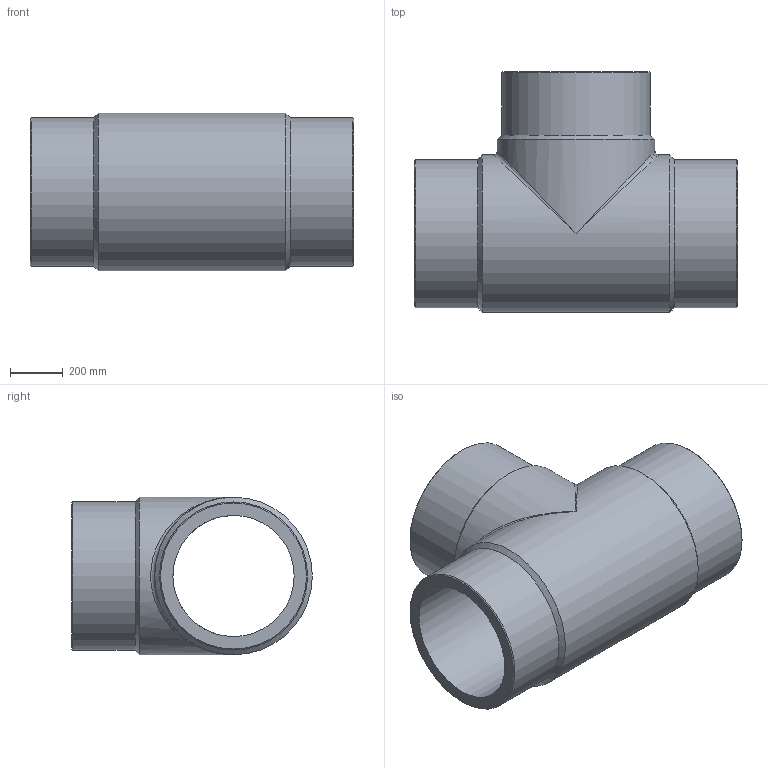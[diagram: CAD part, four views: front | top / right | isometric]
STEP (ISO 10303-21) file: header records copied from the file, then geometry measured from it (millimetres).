
FILE_DESCRIPTION(/* description */ ('Unknown'),/* implementation_level */ '2;1');
FILE_NAME(/* name */ 'TP560C',/* time_stamp */ '2022-06-06T16:01:08+02:00',/* author */ ('Unknown'),/* organization */ ('Unknown'),/* preprocessor_version */ 'ST-DEVELOPER v18.102',/* originating_system */ 'Solid Edge',/* authorisation */ 'Unknown');
FILE_SCHEMA (('AUTOMOTIVE_DESIGN {1 0 10303 214 3 1 1}'));
Length unit declared in the file: millimetre
Products named in the file (1): TP560C
Bounding box: 1222 x 910 x 596 mm (x, y, z)
Volume: 146190856.1 mm3; surface area: 5130984.5 mm2
Topology: 1 solids, 1 shells, 18 faces, 44 edges, 23 vertices
Faces by surface type: cylinder 7, cone 6, plane 3, bspline 2
Full cylindrical faces by diameter (mm): 458.4 x2, 560 x3, 596 x2
Entity records: 528 total; most frequent: CARTESIAN_POINT 171, DIRECTION 76, ORIENTED_EDGE 42, AXIS2_PLACEMENT_3D 38, EDGE_LOOP 36, FACE_BOUND 36, EDGE_CURVE 21, VERTEX_POINT 19
